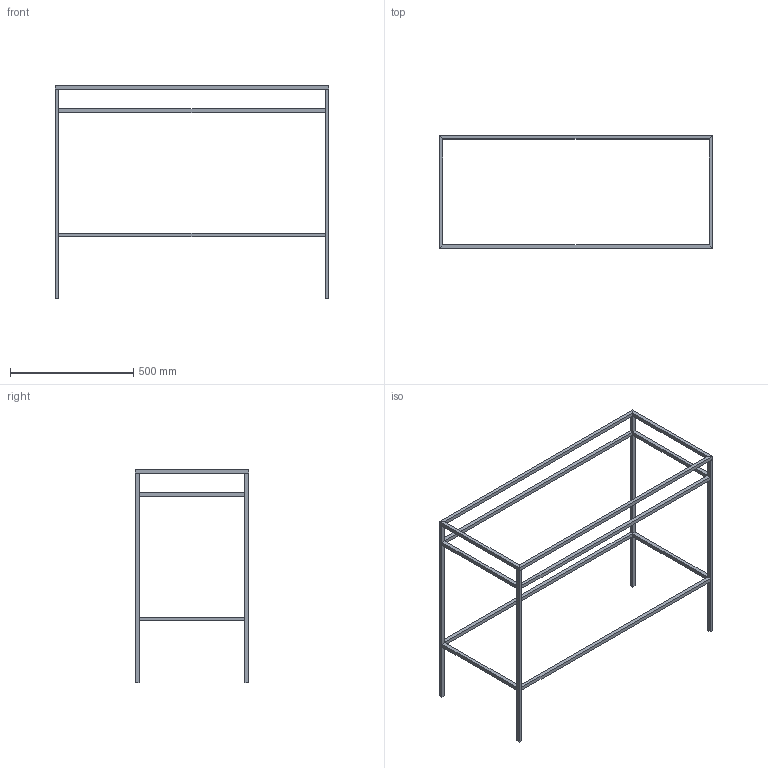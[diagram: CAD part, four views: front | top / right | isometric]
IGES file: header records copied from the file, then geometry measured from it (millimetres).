
Start section: START RECORD GO HERE.
Global section: file name: 2072.igs; native system: DASSAULT SYSTEMES CATIA V5 R19 - www.3ds.com; preprocessor: CATIA Version 5 Release 19 SP 5 ; author: gioge; organization: LAPTOP-G94B6G74; date: 20201003.152649; units: millimetre
Bounding box: 1110 x 460 x 865 mm (x, y, z)
Surface area: 759145.6 mm2 (no closed solid volume)
Topology: 0 solids, 0 shells, 96 faces, 384 edges, 384 vertices
Faces by surface type: plane 96
